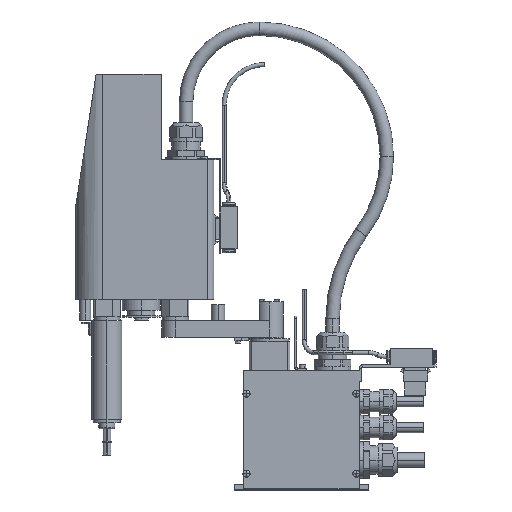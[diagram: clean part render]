
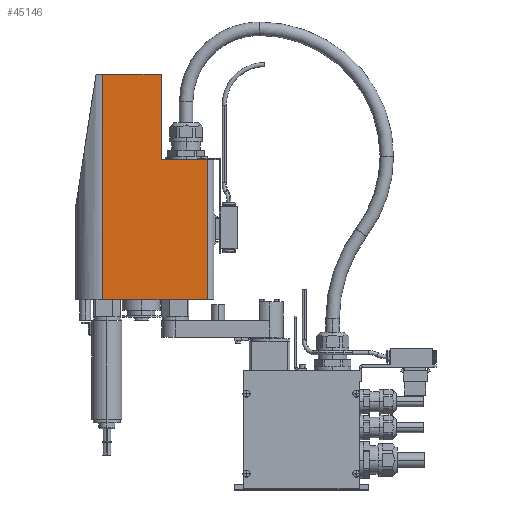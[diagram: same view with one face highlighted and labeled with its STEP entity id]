
A CAD part, top view. The second image highlights one B-rep face of the part: STEP entity #45146.
In plain terms, the highlighted planar face has unit normal (0, 0, 1) as drawn and (0, 1, 0) by its records, which use the part's own axes.
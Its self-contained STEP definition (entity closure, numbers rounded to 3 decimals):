
#8968 = DIRECTION ( 'NONE',  ( 0., 0., -1. ) ) ;
#8969 = VECTOR ( 'NONE', #8968, 1000. ) ;
#8970 = CARTESIAN_POINT ( 'NONE',  ( 80., 20., 306.7 ) ) ;
#8971 = LINE ( 'NONE', #8970, #8969 ) ;
#8972 = CARTESIAN_POINT ( 'NONE',  ( 123., 20., 306.7 ) ) ;
#8973 = DIRECTION ( 'NONE',  ( -1., 0., 0. ) ) ;
#8974 = VECTOR ( 'NONE', #8973, 1000. ) ;
#8975 = CARTESIAN_POINT ( 'NONE',  ( 46., 20., 306.7 ) ) ;
#8976 = LINE ( 'NONE', #8975, #8974 ) ;
#8977 = CARTESIAN_POINT ( 'NONE',  ( 123., 20., 140.4 ) ) ;
#8978 = DIRECTION ( 'NONE',  ( 0., 0., -1. ) ) ;
#8979 = VECTOR ( 'NONE', #8978, 1000. ) ;
#8980 = CARTESIAN_POINT ( 'NONE',  ( 123., 20., 306.7 ) ) ;
#8981 = LINE ( 'NONE', #8980, #8979 ) ;
#8982 = DIRECTION ( 'NONE',  ( 1., 0., 0. ) ) ;
#8983 = DIRECTION ( 'NONE',  ( 0., -1., 0. ) ) ;
#8984 = CARTESIAN_POINT ( 'NONE',  ( 46., 20., 306.7 ) ) ;
#8985 = AXIS2_PLACEMENT_3D ( 'NONE', #8984, #8983, #8982 ) ;
#8986 = PLANE ( 'NONE',  #8985 ) ;
#8987 = FACE_OUTER_BOUND ( 'NONE', #45147, .T. ) ;
#12309 = CARTESIAN_POINT ( 'NONE',  ( 80., 20., 306.7 ) ) ;
#13011 = LINE ( 'NONE', #13074, #13073 ) ;
#13012 = CARTESIAN_POINT ( 'NONE',  ( 46., 20., 140.4 ) ) ;
#13066 = DIRECTION ( 'NONE',  ( 0., 0., -1. ) ) ;
#13067 = VECTOR ( 'NONE', #13066, 1000. ) ;
#13068 = CARTESIAN_POINT ( 'NONE',  ( 46., 20., 306.7 ) ) ;
#13069 = LINE ( 'NONE', #13068, #13067 ) ;
#13072 = DIRECTION ( 'NONE',  ( -1., 0., 0. ) ) ;
#13073 = VECTOR ( 'NONE', #13072, 1000. ) ;
#13074 = CARTESIAN_POINT ( 'NONE',  ( 46., 20., 140.4 ) ) ;
#14686 = VERTEX_POINT ( 'NONE', #15830 ) ;
#14687 = EDGE_CURVE ( 'NONE', #14690, #14686, #15829, .T. ) ;
#14690 = VERTEX_POINT ( 'NONE', #15825 ) ;
#15825 = CARTESIAN_POINT ( 'NONE',  ( 80., 20., 243.7 ) ) ;
#15826 = DIRECTION ( 'NONE',  ( -1., 0., 0. ) ) ;
#15827 = VECTOR ( 'NONE', #15826, 1000. ) ;
#15828 = CARTESIAN_POINT ( 'NONE',  ( 80., 20., 243.7 ) ) ;
#15829 = LINE ( 'NONE', #15828, #15827 ) ;
#15830 = CARTESIAN_POINT ( 'NONE',  ( 46., 20., 243.7 ) ) ;
#45079 = ORIENTED_EDGE ( 'NONE', *, *, #47607, .T. ) ;
#45146 = ADVANCED_FACE ( 'NONE', ( #8987 ), #8986, .F. ) ;
#45147 = EDGE_LOOP ( 'NONE', ( #45151, #45155, #45154, #45148, #45079, #47603 ) ) ;
#45148 = ORIENTED_EDGE ( 'NONE', *, *, #45149, .T. ) ;
#45149 = EDGE_CURVE ( 'NONE', #45153, #45150, #8981, .T. ) ;
#45150 = VERTEX_POINT ( 'NONE', #8977 ) ;
#45151 = ORIENTED_EDGE ( 'NONE', *, *, #14687, .F. ) ;
#45152 = EDGE_CURVE ( 'NONE', #45153, #47120, #8976, .T. ) ;
#45153 = VERTEX_POINT ( 'NONE', #8972 ) ;
#45154 = ORIENTED_EDGE ( 'NONE', *, *, #45152, .F. ) ;
#45155 = ORIENTED_EDGE ( 'NONE', *, *, #45156, .F. ) ;
#45156 = EDGE_CURVE ( 'NONE', #47120, #14690, #8971, .T. ) ;
#47120 = VERTEX_POINT ( 'NONE', #12309 ) ;
#47603 = ORIENTED_EDGE ( 'NONE', *, *, #47612, .F. ) ;
#47606 = VERTEX_POINT ( 'NONE', #13012 ) ;
#47607 = EDGE_CURVE ( 'NONE', #45150, #47606, #13011, .T. ) ;
#47612 = EDGE_CURVE ( 'NONE', #14686, #47606, #13069, .T. ) ;
